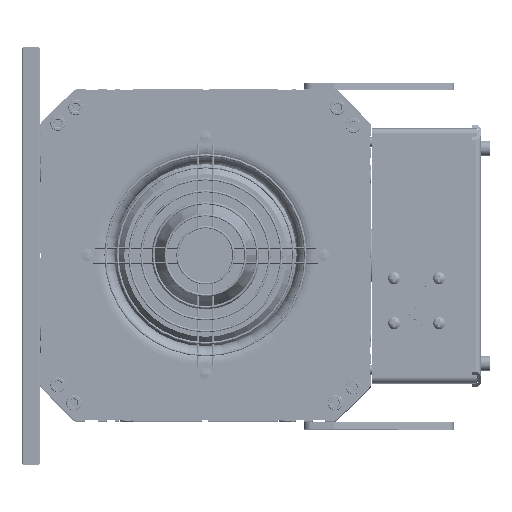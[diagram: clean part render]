
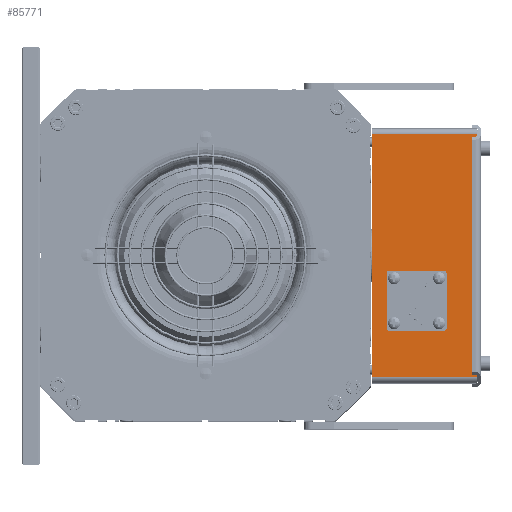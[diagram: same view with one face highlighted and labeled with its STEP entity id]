
A CAD part, top view. The second image highlights one B-rep face of the part: STEP entity #85771.
In plain terms, the highlighted planar face has unit normal (0, 0, 1) as drawn and (-1, 0, 0) by its records, which use the part's own axes.
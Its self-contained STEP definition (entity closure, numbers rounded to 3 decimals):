
#83774=DIRECTION('',(0.,-1.,0.));
#83775=VECTOR('',#83774,162.);
#83776=CARTESIAN_POINT('',(-80.,81.,0.));
#83777=LINE('',#83776,#83775);
#83849=DIRECTION('',(0.,0.,1.));
#83850=VECTOR('',#83849,70.);
#83851=CARTESIAN_POINT('',(-80.,-81.,0.));
#83852=LINE('',#83851,#83850);
#83857=CARTESIAN_POINT('',(-80.,-30.,30.));
#83858=DIRECTION('',(-1.,0.,0.));
#83859=DIRECTION('',(0.,0.,-1.));
#83860=AXIS2_PLACEMENT_3D('',#83857,#83858,#83859);
#83862=CARTESIAN_POINT('',(-80.,-30.,30.));
#83863=DIRECTION('',(-1.,0.,0.));
#83864=DIRECTION('',(0.,0.,1.));
#83865=AXIS2_PLACEMENT_3D('',#83862,#83863,#83864);
#83867=CARTESIAN_POINT('',(-80.,-45.,45.));
#83868=DIRECTION('',(-1.,0.,0.));
#83869=DIRECTION('',(0.,0.,-1.));
#83870=AXIS2_PLACEMENT_3D('',#83867,#83868,#83869);
#83872=CARTESIAN_POINT('',(-80.,-45.,45.));
#83873=DIRECTION('',(-1.,0.,0.));
#83874=DIRECTION('',(0.,0.,1.));
#83875=AXIS2_PLACEMENT_3D('',#83872,#83873,#83874);
#83877=CARTESIAN_POINT('',(-80.,-45.,15.));
#83878=DIRECTION('',(-1.,0.,0.));
#83879=DIRECTION('',(0.,0.,-1.));
#83880=AXIS2_PLACEMENT_3D('',#83877,#83878,#83879);
#83882=CARTESIAN_POINT('',(-80.,-45.,15.));
#83883=DIRECTION('',(-1.,0.,0.));
#83884=DIRECTION('',(0.,0.,1.));
#83885=AXIS2_PLACEMENT_3D('',#83882,#83883,#83884);
#83887=CARTESIAN_POINT('',(-80.,-15.,15.));
#83888=DIRECTION('',(-1.,0.,0.));
#83889=DIRECTION('',(0.,0.,-1.));
#83890=AXIS2_PLACEMENT_3D('',#83887,#83888,#83889);
#83892=CARTESIAN_POINT('',(-80.,-15.,15.));
#83893=DIRECTION('',(-1.,0.,0.));
#83894=DIRECTION('',(0.,0.,1.));
#83895=AXIS2_PLACEMENT_3D('',#83892,#83893,#83894);
#83897=CARTESIAN_POINT('',(-80.,-15.,45.));
#83898=DIRECTION('',(-1.,0.,0.));
#83899=DIRECTION('',(0.,0.,-1.));
#83900=AXIS2_PLACEMENT_3D('',#83897,#83898,#83899);
#83902=CARTESIAN_POINT('',(-80.,-15.,45.));
#83903=DIRECTION('',(-1.,0.,0.));
#83904=DIRECTION('',(0.,0.,1.));
#83905=AXIS2_PLACEMENT_3D('',#83902,#83903,#83904);
#83907=DIRECTION('',(0.,-1.,0.));
#83908=VECTOR('',#83907,162.);
#83909=CARTESIAN_POINT('',(-80.,81.,70.));
#83910=LINE('',#83909,#83908);
#85167=DIRECTION('',(0.,0.,-1.));
#85168=VECTOR('',#85167,70.);
#85169=CARTESIAN_POINT('',(-80.,81.,70.));
#85170=LINE('',#85169,#85168);
#85239=CARTESIAN_POINT('',(-80.,-30.,14.));
#85240=CARTESIAN_POINT('',(-80.,-30.,46.));
#85241=VERTEX_POINT('',#85239);
#85242=VERTEX_POINT('',#85240);
#85243=CARTESIAN_POINT('',(-80.,-45.,43.));
#85244=CARTESIAN_POINT('',(-80.,-45.,47.));
#85245=VERTEX_POINT('',#85243);
#85246=VERTEX_POINT('',#85244);
#85247=CARTESIAN_POINT('',(-80.,-45.,13.));
#85248=CARTESIAN_POINT('',(-80.,-45.,17.));
#85249=VERTEX_POINT('',#85247);
#85250=VERTEX_POINT('',#85248);
#85251=CARTESIAN_POINT('',(-80.,-15.,13.));
#85252=CARTESIAN_POINT('',(-80.,-15.,17.));
#85253=VERTEX_POINT('',#85251);
#85254=VERTEX_POINT('',#85252);
#85255=CARTESIAN_POINT('',(-80.,-15.,43.));
#85256=CARTESIAN_POINT('',(-80.,-15.,47.));
#85257=VERTEX_POINT('',#85255);
#85258=VERTEX_POINT('',#85256);
#85588=CARTESIAN_POINT('',(-80.,-81.,0.));
#85590=VERTEX_POINT('',#85588);
#85591=CARTESIAN_POINT('',(-80.,81.,0.));
#85593=VERTEX_POINT('',#85591);
#85620=CARTESIAN_POINT('',(-80.,81.,70.));
#85622=VERTEX_POINT('',#85620);
#85623=CARTESIAN_POINT('',(-80.,-81.,70.));
#85625=VERTEX_POINT('',#85623);
#85728=CARTESIAN_POINT('',(-80.,85.,0.));
#85729=DIRECTION('',(-1.,0.,0.));
#85730=DIRECTION('',(0.,-1.,0.));
#85731=AXIS2_PLACEMENT_3D('',#85728,#85729,#85730);
#85732=PLANE('',#85731);
#85734=ORIENTED_EDGE('',*,*,#85733,.F.);
#85736=ORIENTED_EDGE('',*,*,#85735,.T.);
#85737=ORIENTED_EDGE('',*,*,#85719,.F.);
#85738=ORIENTED_EDGE('',*,*,#85646,.F.);
#85739=EDGE_LOOP('',(#85734,#85736,#85737,#85738));
#85740=FACE_OUTER_BOUND('',#85739,.F.);
#85742=ORIENTED_EDGE('',*,*,#85741,.T.);
#85744=ORIENTED_EDGE('',*,*,#85743,.T.);
#85745=EDGE_LOOP('',(#85742,#85744));
#85746=FACE_BOUND('',#85745,.F.);
#85748=ORIENTED_EDGE('',*,*,#85747,.T.);
#85750=ORIENTED_EDGE('',*,*,#85749,.T.);
#85751=EDGE_LOOP('',(#85748,#85750));
#85752=FACE_BOUND('',#85751,.F.);
#85754=ORIENTED_EDGE('',*,*,#85753,.T.);
#85756=ORIENTED_EDGE('',*,*,#85755,.T.);
#85757=EDGE_LOOP('',(#85754,#85756));
#85758=FACE_BOUND('',#85757,.F.);
#85760=ORIENTED_EDGE('',*,*,#85759,.T.);
#85762=ORIENTED_EDGE('',*,*,#85761,.T.);
#85763=EDGE_LOOP('',(#85760,#85762));
#85764=FACE_BOUND('',#85763,.F.);
#85766=ORIENTED_EDGE('',*,*,#85765,.T.);
#85768=ORIENTED_EDGE('',*,*,#85767,.T.);
#85769=EDGE_LOOP('',(#85766,#85768));
#85770=FACE_BOUND('',#85769,.F.);
#85771=ADVANCED_FACE('',(#85740,#85746,#85752,#85758,#85764,#85770),#85732,.T.);
#83861=CIRCLE('',#83860,16.);
#83866=CIRCLE('',#83865,16.);
#83871=CIRCLE('',#83870,2.);
#83876=CIRCLE('',#83875,2.);
#83881=CIRCLE('',#83880,2.);
#83886=CIRCLE('',#83885,2.);
#83891=CIRCLE('',#83890,2.);
#83896=CIRCLE('',#83895,2.);
#83901=CIRCLE('',#83900,2.);
#83906=CIRCLE('',#83905,2.);
#85646=EDGE_CURVE('',#85593,#85590,#83777,.T.);
#85719=EDGE_CURVE('',#85590,#85625,#83852,.T.);
#85733=EDGE_CURVE('',#85622,#85593,#85170,.T.);
#85735=EDGE_CURVE('',#85622,#85625,#83910,.T.);
#85741=EDGE_CURVE('',#85245,#85246,#83871,.T.);
#85743=EDGE_CURVE('',#85246,#85245,#83876,.T.);
#85747=EDGE_CURVE('',#85249,#85250,#83881,.T.);
#85749=EDGE_CURVE('',#85250,#85249,#83886,.T.);
#85753=EDGE_CURVE('',#85253,#85254,#83891,.T.);
#85755=EDGE_CURVE('',#85254,#85253,#83896,.T.);
#85759=EDGE_CURVE('',#85257,#85258,#83901,.T.);
#85761=EDGE_CURVE('',#85258,#85257,#83906,.T.);
#85765=EDGE_CURVE('',#85241,#85242,#83861,.T.);
#85767=EDGE_CURVE('',#85242,#85241,#83866,.T.);
